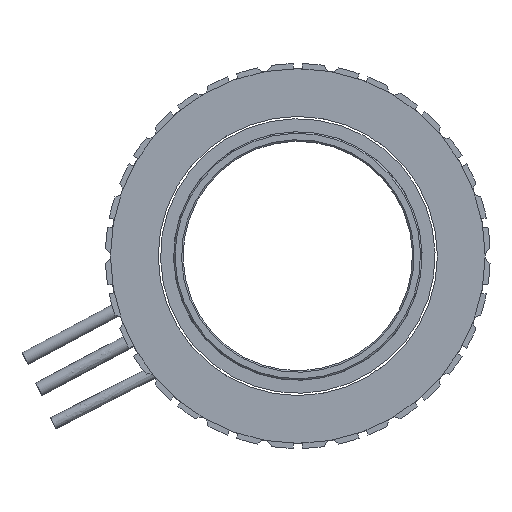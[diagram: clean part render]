
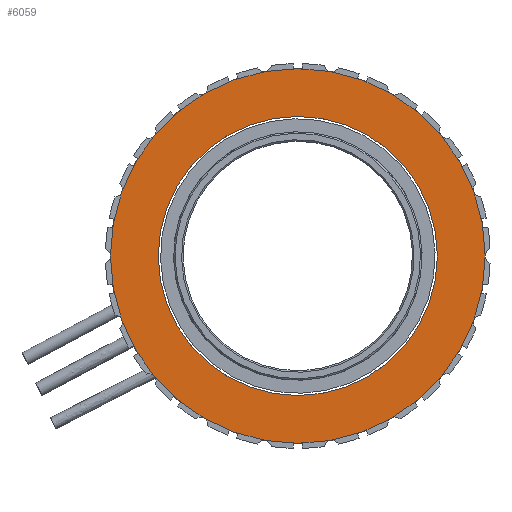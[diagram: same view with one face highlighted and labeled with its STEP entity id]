
A CAD part, left-side view. The second image highlights one B-rep face of the part: STEP entity #6059.
In plain terms, the highlighted planar face has unit normal (-1, 0, 0).
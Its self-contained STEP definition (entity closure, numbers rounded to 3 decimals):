
#4988 = AXIS2_PLACEMENT_3D ( 'NONE', #51419, #46377, #56103 ) ;
#6059 = ADVANCED_FACE ( 'NONE', ( #34106, #12476 ), #45246, .F. ) ;
#7998 = VERTEX_POINT ( 'NONE', #12026 ) ;
#11921 = AXIS2_PLACEMENT_3D ( 'NONE', #39143, #45604, #67555 ) ;
#12026 = CARTESIAN_POINT ( 'NONE',  ( -2.9, 0., 18.25 ) ) ;
#12476 = FACE_BOUND ( 'NONE', #66023, .T. ) ;
#13248 = AXIS2_PLACEMENT_3D ( 'NONE', #67966, #39207, #34882 ) ;
#14745 = DIRECTION ( 'NONE',  ( 1., 0., 0. ) ) ;
#16977 = AXIS2_PLACEMENT_3D ( 'NONE', #20348, #40866, #58139 ) ;
#20306 = VERTEX_POINT ( 'NONE', #21497 ) ;
#20348 = CARTESIAN_POINT ( 'NONE',  ( -2.9, 0., 0. ) ) ;
#21497 = CARTESIAN_POINT ( 'NONE',  ( -2.9, 0., -18.25 ) ) ;
#21816 = EDGE_CURVE ( 'NONE', #54146, #61010, #65918, .T. ) ;
#23131 = ORIENTED_EDGE ( 'NONE', *, *, #21816, .F. ) ;
#23278 = ORIENTED_EDGE ( 'NONE', *, *, #60264, .T. ) ;
#25221 = CARTESIAN_POINT ( 'NONE',  ( -2.9, 0., -24.5 ) ) ;
#29710 = CARTESIAN_POINT ( 'NONE',  ( -2.9, 0., 24.5 ) ) ;
#30479 = ORIENTED_EDGE ( 'NONE', *, *, #37218, .T. ) ;
#34106 = FACE_OUTER_BOUND ( 'NONE', #47996, .T. ) ;
#34882 = DIRECTION ( 'NONE',  ( 0., 0., -1. ) ) ;
#36020 = CARTESIAN_POINT ( 'NONE',  ( -2.9, 0., 0. ) ) ;
#36718 = DIRECTION ( 'NONE',  ( 0., 0., -1. ) ) ;
#37218 = EDGE_CURVE ( 'NONE', #7998, #20306, #37812, .T. ) ;
#37812 = CIRCLE ( 'NONE', #49331, 18.25 ) ;
#39143 = CARTESIAN_POINT ( 'NONE',  ( -2.9, 0., 0. ) ) ;
#39207 = DIRECTION ( 'NONE',  ( 1., 0., 0. ) ) ;
#40866 = DIRECTION ( 'NONE',  ( 1., 0., 0. ) ) ;
#45246 = PLANE ( 'NONE',  #11921 ) ;
#45604 = DIRECTION ( 'NONE',  ( 1., 0., 0. ) ) ;
#46377 = DIRECTION ( 'NONE',  ( 1., 0., 0. ) ) ;
#46878 = CIRCLE ( 'NONE', #16977, 18.25 ) ;
#47090 = ORIENTED_EDGE ( 'NONE', *, *, #65769, .F. ) ;
#47996 = EDGE_LOOP ( 'NONE', ( #23131, #47090 ) ) ;
#49331 = AXIS2_PLACEMENT_3D ( 'NONE', #36020, #14745, #36718 ) ;
#51419 = CARTESIAN_POINT ( 'NONE',  ( -2.9, 0., 0. ) ) ;
#54146 = VERTEX_POINT ( 'NONE', #29710 ) ;
#56103 = DIRECTION ( 'NONE',  ( 0., 0., -1. ) ) ;
#58072 = CIRCLE ( 'NONE', #13248, 24.5 ) ;
#58139 = DIRECTION ( 'NONE',  ( 0., 0., -1. ) ) ;
#60264 = EDGE_CURVE ( 'NONE', #20306, #7998, #46878, .T. ) ;
#61010 = VERTEX_POINT ( 'NONE', #25221 ) ;
#65769 = EDGE_CURVE ( 'NONE', #61010, #54146, #58072, .T. ) ;
#65918 = CIRCLE ( 'NONE', #4988, 24.5 ) ;
#66023 = EDGE_LOOP ( 'NONE', ( #30479, #23278 ) ) ;
#67555 = DIRECTION ( 'NONE',  ( 0., 0., -1. ) ) ;
#67966 = CARTESIAN_POINT ( 'NONE',  ( -2.9, 0., 0. ) ) ;
